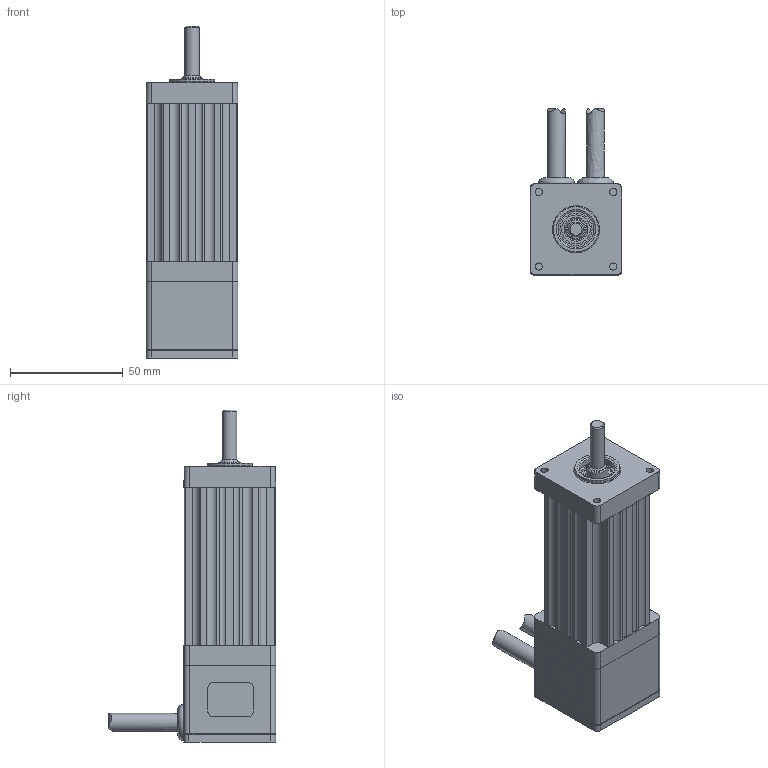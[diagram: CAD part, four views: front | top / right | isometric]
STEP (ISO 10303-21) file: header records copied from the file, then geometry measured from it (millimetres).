
FILE_DESCRIPTION((''),'2;1');
FILE_NAME('C:\CAD_work\Dummy_Modeling_Project_02-12-05\3D MODELS\SM162_CBL.stp','2005-12-20T17:37:39',('jevans'),(''),'Autodesk Inventor 10','Autodesk Inventor 10','');
FILE_SCHEMA(('AUTOMOTIVE_DESIGN { 1 0 10303 214 1 1 1 1 }'));
Length unit declared in the file: inch
Products named in the file (1): SM16_CBL
Bounding box: 40.67 x 74.07 x 147.07 mm (x, y, z)
Volume: 227593.3 mm3; surface area: 35578.9 mm2
Topology: 8 solids, 8 shells, 223 faces, 565 edges, 369 vertices
Faces by surface type: plane 97, cylinder 92, bspline 28, cone 3, torus 3
Full cylindrical faces by diameter (mm): 6.35 x1, 7.95 x1, 9.525 x2, 12.7 x1, 14.224 x1, 15.875 x2, 17.526 x1, 20.015 x1, 22.225 x1, 22.228 x1
Entity records: 7292 total; most frequent: CARTESIAN_POINT 2014, DIRECTION 1096, ORIENTED_EDGE 1054, EDGE_CURVE 527, AXIS2_PLACEMENT_3D 403, VERTEX_POINT 359, VECTOR 290, LINE 290
